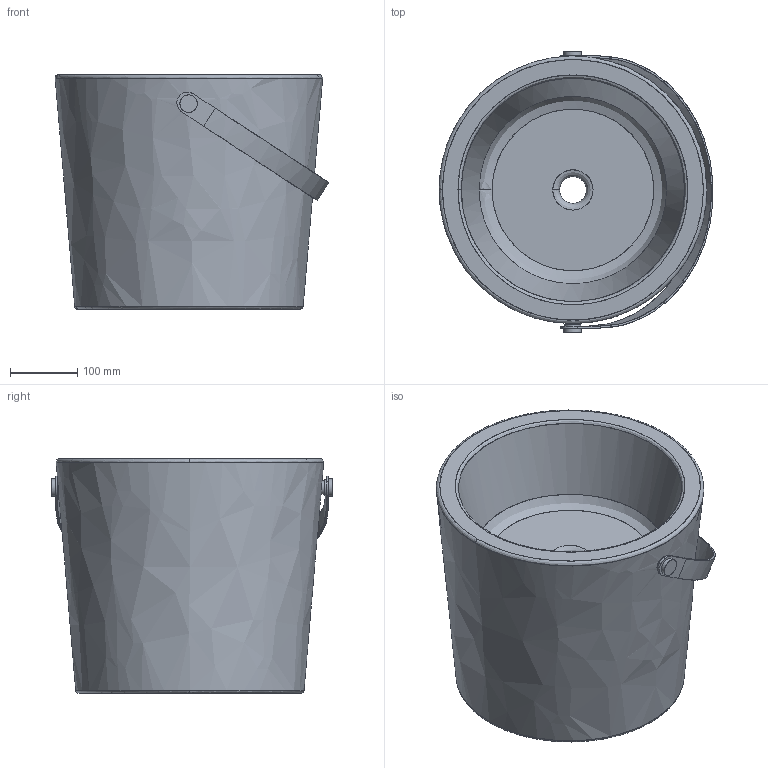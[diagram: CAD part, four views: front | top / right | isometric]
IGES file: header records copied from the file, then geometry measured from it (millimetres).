
Start section: C
Global section: file name: Lavabo Bucket 40.igs; native system:  By UGS Corp.; preprocessor: XPlus GENERIC/IGES 3.0; author: Author; organization: Title; date: 20120706.143004; units: millimetre
Bounding box: 408.3 x 418 x 350 mm (x, y, z)
Surface area: 972781.6 mm2 (no closed solid volume)
Topology: 0 solids, 0 shells, 69 faces, 344 edges, 344 vertices
Faces by surface type: bspline 69
